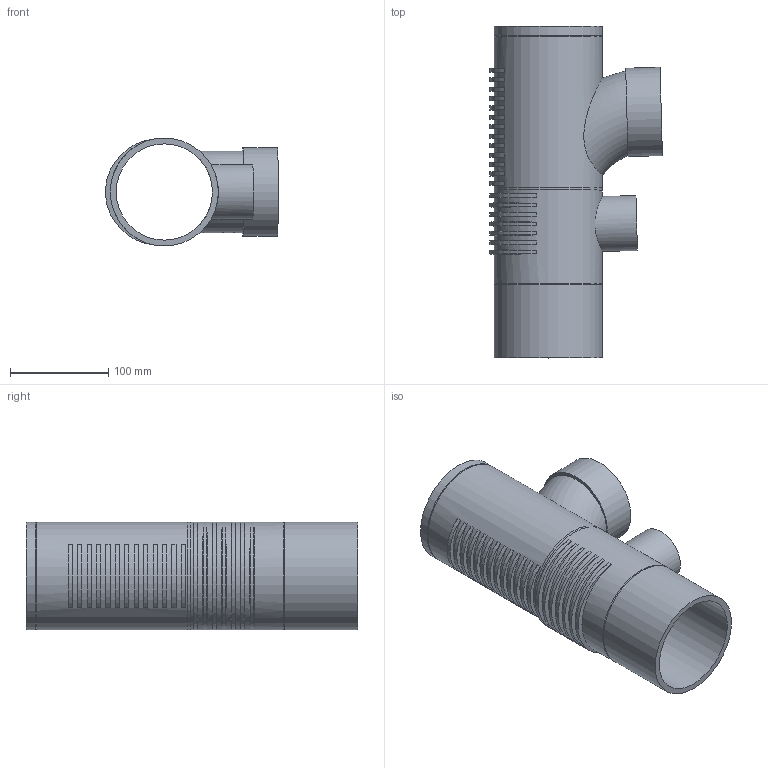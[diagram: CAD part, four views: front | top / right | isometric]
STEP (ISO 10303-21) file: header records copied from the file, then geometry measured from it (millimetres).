
FILE_DESCRIPTION(/* description */ (''),/* implementation_level */ '2;1');
FILE_NAME(/* name */ 'Z:\Geberit\Export\NewStep\310811.stp',/* time_stamp */ '2014-04-01T20:08:32+02:00',/* author */ ('ML'),/* organization */ (''),/* preprocessor_version */ 'ST-DEVELOPER v15.2',/* originating_system */ 'Autodesk Inventor 2014',/* authorisation */ '');
FILE_SCHEMA (('AUTOMOTIVE_DESIGN { 1 0 10303 214 3 1 1 }'));
Length unit declared in the file: millimetre
Products named in the file (5): 310058; 861734; 310088; 861735; 310811
Bounding box: 175.94 x 338 x 110 mm (x, y, z)
Volume: 779304.6 mm3; surface area: 282102.9 mm2
Topology: 2 solids, 2 shells, 84 faces, 187 edges, 128 vertices
Faces by surface type: plane 34, cylinder 30, cone 18, torus 2
Full cylindrical faces by diameter (mm): 49.6 x1, 56 x1, 79 x1, 90 x1, 98 x2, 110 x4
Entity records: 3124 total; most frequent: CARTESIAN_POINT 1189, DIRECTION 398, ORIENTED_EDGE 320, AXIS2_PLACEMENT_3D 179, EDGE_CURVE 160, EDGE_LOOP 132, VERTEX_POINT 120, CIRCLE 86
